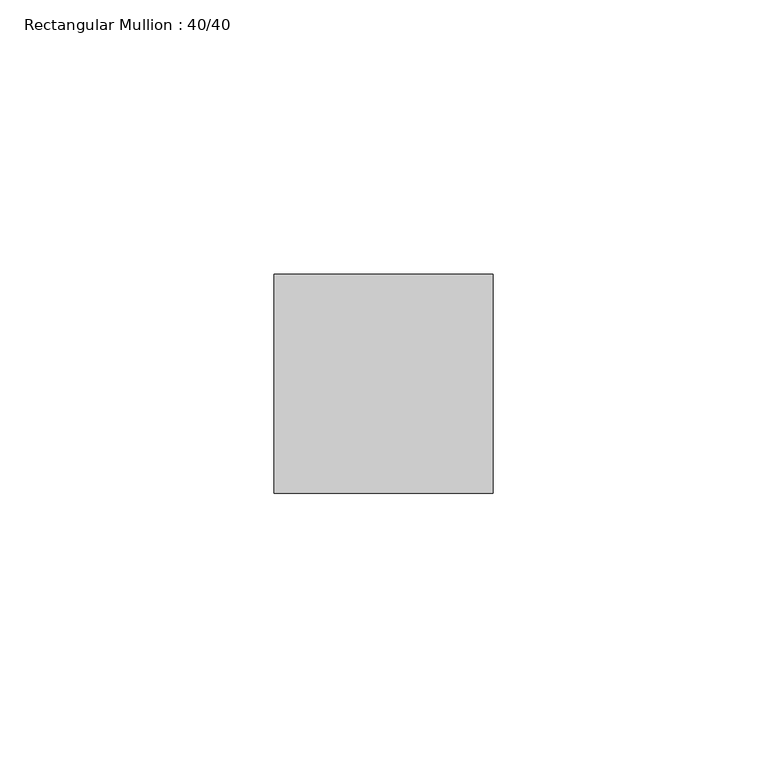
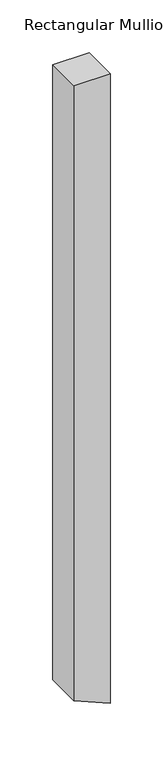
"""IFC4 building model written with IfcOpenShell, lengths in millimetres: member geometry, Rectangular Mullion : 40/40."""

from ifc_helpers import new_model, si_unit, frame, origin, place, context, project, spatial, polyline, outline, extrude, source, transform, mapped, element, save


def rectangular_mullion_40_40_bc456549(model_context):
    return source(origin(), model_context, "Body", "SweptSolid", [
        extrude(outline(polyline([(0.0, 0.0), (0.0, -40.0), (-712.9959713, -40.0), (-730.0210501, 0.0), (0.0, 0.0)])), frame((0.0, -20.0, 0.0), z_axis=(0.0, 1.0, 0.0), x_axis=(0.0, 0.0, 1.0)), (0.0, 0.0, 1.0), 40.0),
    ])


if __name__ == "__main__":
    model = new_model("IFC4")
    model_context = context("Model", 3, world=origin())
    ifc_project = project(units=[si_unit("LENGTHUNIT", "METRE", prefix="MILLI")], contexts=[model_context])
    site = spatial("IfcSite", under=ifc_project)
    building = spatial("IfcBuilding", under=site)
    placement = place(None, origin())
    rectangular_mullion_40_40_shape = rectangular_mullion_40_40_bc456549(model_context)
    element("IfcMember", 1, ObjectType="Rectangular Mullion : 40/40", at=placement, inside=building, context=model_context, shape_type="MappedRepresentation", body=[
        mapped(rectangular_mullion_40_40_shape, transform((0.0, 0.0, 0.0), x_axis=(1.0, 0.0, 0.0), y_axis=(0.0, 1.0, 0.0), z_axis=(0.0, 0.0, 1.0))),
    ])
    save(model, "model.ifc")
